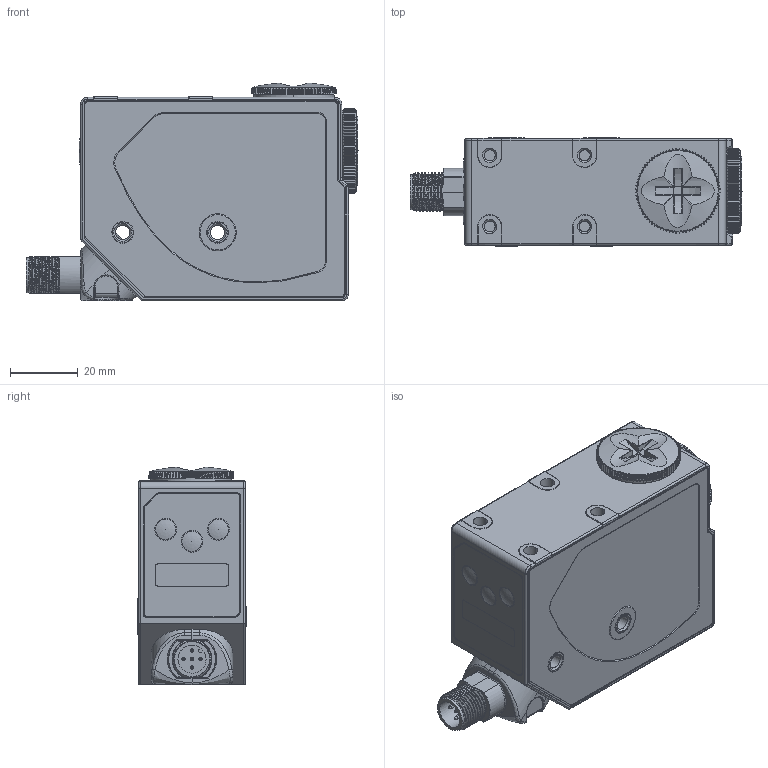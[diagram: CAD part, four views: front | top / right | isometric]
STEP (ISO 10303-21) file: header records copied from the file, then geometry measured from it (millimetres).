
FILE_DESCRIPTION(/* description */ (''),/* implementation_level */ '2;1');
FILE_NAME(/* name */ 'AP005229_01_DSD-0525.stp',/* time_stamp */ '2013-02-26T08:41:59+01:00',/* author */ (''),/* organization */ (''),/* preprocessor_version */ 'ST-DEVELOPER v11',/* originating_system */ 'SIEMENS PLM Software NX 7.5',/* authorisation */ '');
FILE_SCHEMA (('AP203_CONFIGURATION_CONTROLLED_3D_DESIGN_OF_MECHANICAL_PARTS_AND_ASSEMBLIES_MIM_LF'));
Products named in the file (1): AP005229_01
Bounding box: 97.91 x 31.9 x 64.21 mm (x, y, z)
Volume: 147605.9 mm3; surface area: 22293.9 mm2
Topology: 1 solids, 2 shells, 1819 faces, 4726 edges, 2993 vertices
Faces by surface type: bspline 631, plane 493, cylinder 485, cone 103, torus 102, sphere 5
Full cylindrical faces by diameter (mm): 1 x5, 4.2 x2, 8.3 x1, 10.4 x1, 11 x1, 20 x1, 23.8 x1, 24 x2
Entity records: 92245 total; most frequent: CARTESIAN_POINT 58622, ORIENTED_EDGE 9316, EDGE_CURVE 4658, B_SPLINE_CURVE_WITH_KNOTS 3610, DIRECTION 3191, VERTEX_POINT 2968, EDGE_LOOP 1945, ADVANCED_FACE 1819
